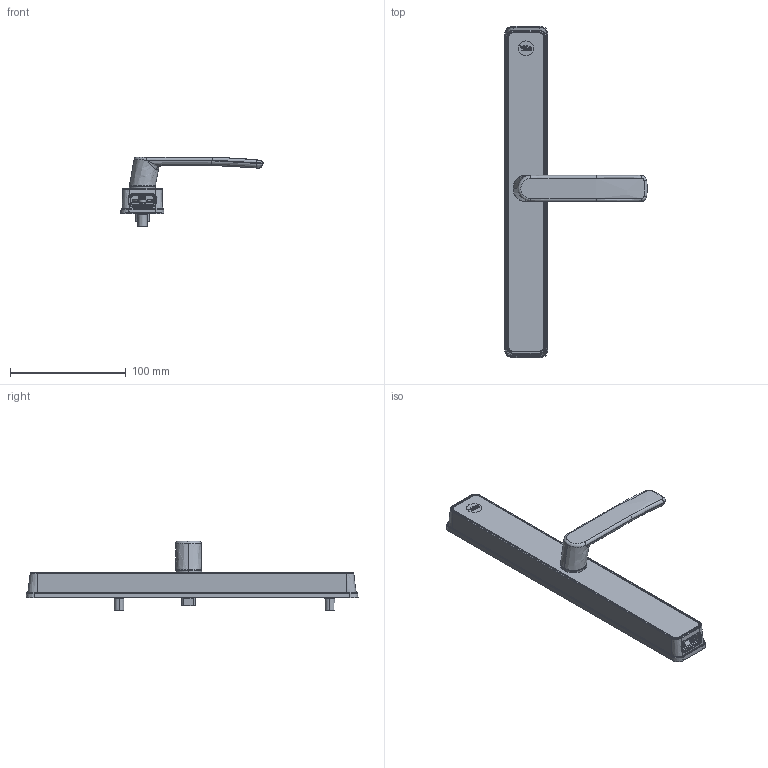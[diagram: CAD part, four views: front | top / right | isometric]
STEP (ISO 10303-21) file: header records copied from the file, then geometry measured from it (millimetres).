
FILE_DESCRIPTION (( 'STEP AP214' ), '1' );
FILE_NAME ('External Escutcheon.STEP', '2024-07-01T02:46:11', ( '' ), ( '' ), 'SwSTEP 2.0', 'SolidWorks 2022', '' );
FILE_SCHEMA (( 'AUTOMOTIVE_DESIGN' ));
Length unit declared in the file: millimetre
Products named in the file (11): External Escutcheon.STEP; D001448418-001.STEP; D001432620-001.STEP; D001431869-001.STEP; D001113205-001.STEP; D001431874-001.STEP; D001431876-001.STEP; D001431860-001.STEP; External Escutcheon; D001431882-001.STEP; D001431862-001.STEP
Assembly tree (10 placements, depth 5):
  External Escutcheon
    External Escutcheon.STEP
      D001448418-001.STEP
        D001431860-001.STEP
          D001431862-001.STEP
      D001431874-001.STEP
        D001113205-001.STEP
        D001431876-001.STEP
      D001432620-001.STEP
      D001431869-001.STEP
      D001431882-001.STEP
Bounding box: 123.06 x 286.8 x 59.95 mm (x, y, z)
Volume: 116818.5 mm3; surface area: 105323.7 mm2
Topology: 6 solids, 6 shells, 3367 faces, 8333 edges, 4870 vertices
Faces by surface type: bspline 972, cylinder 887, plane 729, torus 374, cone 277, sphere 128
Entity records: 128341 total; most frequent: CARTESIAN_POINT 57154, ORIENTED_EDGE 16320, DIRECTION 13112, EDGE_CURVE 8160, AXIS2_PLACEMENT_3D 5139, VERTEX_POINT 4870, EDGE_LOOP 3502, ADVANCED_FACE 3367
